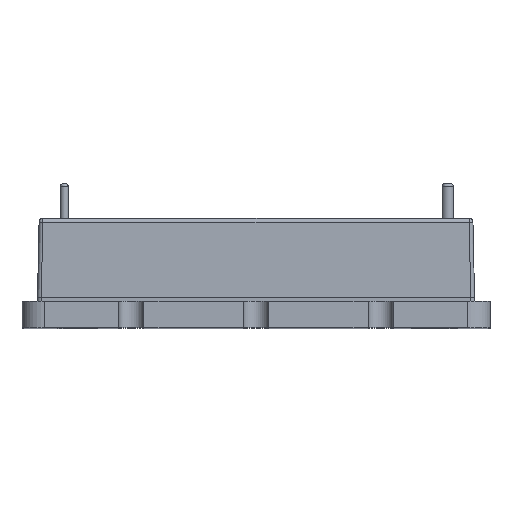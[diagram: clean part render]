
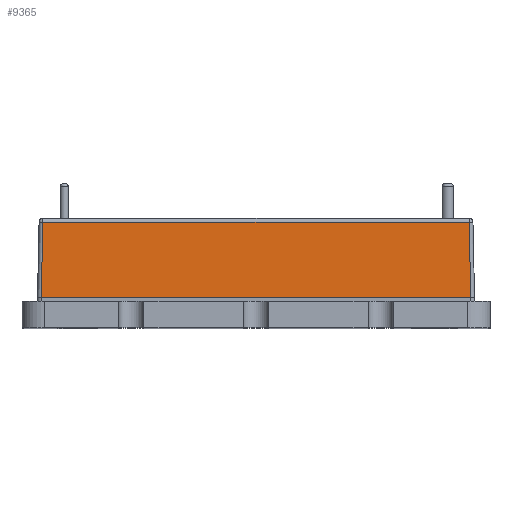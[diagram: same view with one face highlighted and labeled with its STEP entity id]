
A CAD part, top view. The second image highlights one B-rep face of the part: STEP entity #9365.
In plain terms, the highlighted planar face has unit normal (0, 0.021, 1).
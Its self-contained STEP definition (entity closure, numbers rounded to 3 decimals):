
#613=DIRECTION('',(-1.,0.,0.));
#614=VECTOR('',#613,56.481);
#615=CARTESIAN_POINT('',(28.24,12.21,18.19));
#616=LINE('',#615,#614);
#626=DIRECTION('',(0.021,-1.,0.021));
#627=VECTOR('',#626,10.015);
#628=CARTESIAN_POINT('',(28.24,12.21,18.19));
#629=LINE('',#628,#627);
#630=DIRECTION('',(-1.,0.,0.));
#631=VECTOR('',#630,56.9);
#632=CARTESIAN_POINT('',(28.45,2.2,18.4));
#633=LINE('',#632,#631);
#634=DIRECTION('',(0.021,1.,-0.021));
#635=VECTOR('',#634,10.015);
#636=CARTESIAN_POINT('',(-28.45,2.2,18.4));
#637=LINE('',#636,#635);
#739=CARTESIAN_POINT('',(28.45,2.2,18.4));
#7457=VERTEX_POINT('',#739);
#7458=CARTESIAN_POINT('',(-28.45,2.2,18.4));
#7459=VERTEX_POINT('',#7458);
#7512=CARTESIAN_POINT('',(28.24,12.21,18.19));
#7513=VERTEX_POINT('',#7512);
#7514=CARTESIAN_POINT('',(-28.24,12.21,18.19));
#7515=VERTEX_POINT('',#7514);
#9351=CARTESIAN_POINT('',(0.,7.205,
18.295));
#9352=DIRECTION('',(0.,0.021,1.));
#9353=DIRECTION('',(1.,0.,0.));
#9354=AXIS2_PLACEMENT_3D('',#9351,#9352,#9353);
#9355=PLANE('',#9354);
#9357=ORIENTED_EDGE('',*,*,#9356,.T.);
#9359=ORIENTED_EDGE('',*,*,#9358,.T.);
#9361=ORIENTED_EDGE('',*,*,#9360,.T.);
#9362=ORIENTED_EDGE('',*,*,#9335,.F.);
#9363=EDGE_LOOP('',(#9357,#9359,#9361,#9362));
#9364=FACE_OUTER_BOUND('',#9363,.F.);
#9335=EDGE_CURVE('',#7513,#7515,#616,.T.);
#9356=EDGE_CURVE('',#7513,#7457,#629,.T.);
#9358=EDGE_CURVE('',#7457,#7459,#633,.T.);
#9360=EDGE_CURVE('',#7459,#7515,#637,.T.);
#9365=ADVANCED_FACE('',(#9364),#9355,.T.);
